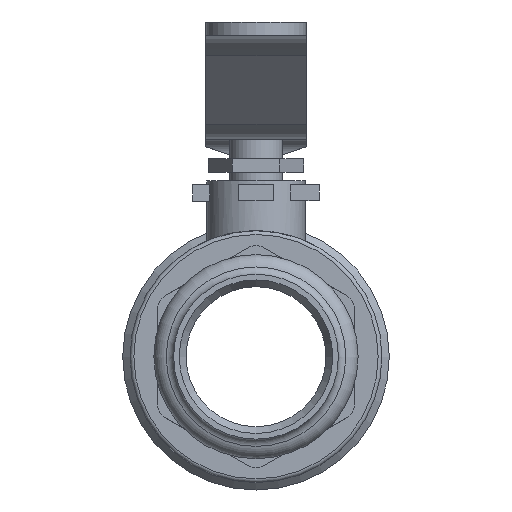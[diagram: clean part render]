
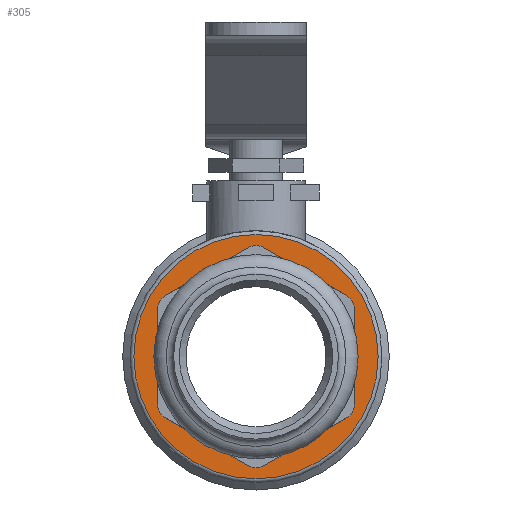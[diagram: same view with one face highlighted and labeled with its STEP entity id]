
A CAD part, left-side view. The second image highlights one B-rep face of the part: STEP entity #305.
In plain terms, the highlighted planar face has unit normal (-1, 0, 0).
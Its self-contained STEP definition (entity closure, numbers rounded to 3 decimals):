
#305=ADVANCED_FACE('',(#1091,#1092),#503,.F.);
#503=PLANE('',#3158);
#615=LINE('',#4420,#853);
#616=LINE('',#4423,#854);
#617=LINE('',#4425,#855);
#618=LINE('',#4427,#856);
#619=LINE('',#4429,#857);
#620=LINE('',#4431,#858);
#621=LINE('',#4433,#859);
#622=LINE('',#4435,#860);
#623=LINE('',#4437,#861);
#624=LINE('',#4439,#862);
#625=LINE('',#4441,#863);
#626=LINE('',#4443,#864);
#853=VECTOR('',#3501,1.);
#854=VECTOR('',#3502,1.);
#855=VECTOR('',#3503,1.);
#856=VECTOR('',#3504,1.);
#857=VECTOR('',#3505,1.);
#858=VECTOR('',#3506,1.);
#859=VECTOR('',#3507,1.);
#860=VECTOR('',#3508,1.);
#861=VECTOR('',#3509,1.);
#862=VECTOR('',#3510,1.);
#863=VECTOR('',#3511,1.);
#864=VECTOR('',#3512,1.);
#1091=FACE_BOUND('',#1282,.T.);
#1092=FACE_BOUND('',#1283,.T.);
#1282=EDGE_LOOP('',(#1578));
#1283=EDGE_LOOP('',(#1579,#1580,#1581,#1582,#1583,#1584,#1585,#1586,#1587,
#1588,#1589,#1590));
#1578=ORIENTED_EDGE('',*,*,#2633,.T.);
#1579=ORIENTED_EDGE('',*,*,#2634,.F.);
#1580=ORIENTED_EDGE('',*,*,#2635,.T.);
#1581=ORIENTED_EDGE('',*,*,#2636,.F.);
#1582=ORIENTED_EDGE('',*,*,#2637,.T.);
#1583=ORIENTED_EDGE('',*,*,#2638,.F.);
#1584=ORIENTED_EDGE('',*,*,#2639,.T.);
#1585=ORIENTED_EDGE('',*,*,#2640,.F.);
#1586=ORIENTED_EDGE('',*,*,#2641,.T.);
#1587=ORIENTED_EDGE('',*,*,#2642,.F.);
#1588=ORIENTED_EDGE('',*,*,#2643,.T.);
#1589=ORIENTED_EDGE('',*,*,#2644,.F.);
#1590=ORIENTED_EDGE('',*,*,#2645,.T.);
#2348=VERTEX_POINT('',#4419);
#2349=VERTEX_POINT('',#4421);
#2350=VERTEX_POINT('',#4422);
#2351=VERTEX_POINT('',#4424);
#2352=VERTEX_POINT('',#4426);
#2353=VERTEX_POINT('',#4428);
#2354=VERTEX_POINT('',#4430);
#2355=VERTEX_POINT('',#4432);
#2356=VERTEX_POINT('',#4434);
#2357=VERTEX_POINT('',#4436);
#2358=VERTEX_POINT('',#4438);
#2359=VERTEX_POINT('',#4440);
#2360=VERTEX_POINT('',#4442);
#2633=EDGE_CURVE('',#2348,#2348,#3018,.T.);
#2634=EDGE_CURVE('',#2349,#2350,#615,.T.);
#2635=EDGE_CURVE('',#2349,#2351,#616,.T.);
#2636=EDGE_CURVE('',#2352,#2351,#617,.T.);
#2637=EDGE_CURVE('',#2352,#2353,#618,.T.);
#2638=EDGE_CURVE('',#2354,#2353,#619,.T.);
#2639=EDGE_CURVE('',#2354,#2355,#620,.T.);
#2640=EDGE_CURVE('',#2356,#2355,#621,.T.);
#2641=EDGE_CURVE('',#2356,#2357,#622,.T.);
#2642=EDGE_CURVE('',#2358,#2357,#623,.T.);
#2643=EDGE_CURVE('',#2358,#2359,#624,.T.);
#2644=EDGE_CURVE('',#2360,#2359,#625,.T.);
#2645=EDGE_CURVE('',#2360,#2350,#626,.T.);
#3018=CIRCLE('',#3157,32.3);
#3157=AXIS2_PLACEMENT_3D('',#4418,#3499,#3500);
#3158=AXIS2_PLACEMENT_3D('',#4444,#3513,#3514);
#3499=DIRECTION('',(-1.,0.,0.));
#3500=DIRECTION('',(0.,0.,-1.));
#3501=DIRECTION('',(0.,0.,1.));
#3502=DIRECTION('',(0.,0.5,-0.866));
#3503=DIRECTION('',(0.,-0.866,0.5));
#3504=DIRECTION('',(0.,1.,0.));
#3505=DIRECTION('',(0.,-0.866,-0.5));
#3506=DIRECTION('',(0.,0.5,0.866));
#3507=DIRECTION('',(0.,0.,-1.));
#3508=DIRECTION('',(0.,-0.5,0.866));
#3509=DIRECTION('',(0.,0.866,-0.5));
#3510=DIRECTION('',(0.,-1.,0.));
#3511=DIRECTION('',(0.,0.866,0.5));
#3512=DIRECTION('',(0.,-0.5,-0.866));
#3513=DIRECTION('',(1.,0.,0.));
#3514=DIRECTION('',(0.,0.,-1.));
#4418=CARTESIAN_POINT('',(-29.5,0.,0.));
#4419=CARTESIAN_POINT('',(-29.5,0.,-32.3));
#4420=CARTESIAN_POINT('',(-29.5,-26.,-15.011));
#4421=CARTESIAN_POINT('',(-29.5,-26.,-12.011));
#4422=CARTESIAN_POINT('',(-29.5,-26.,12.011));
#4423=CARTESIAN_POINT('',(-29.5,-26.,-12.011));
#4424=CARTESIAN_POINT('',(-29.5,-23.402,-16.511));
#4425=CARTESIAN_POINT('',(-29.5,0.,-30.022));
#4426=CARTESIAN_POINT('',(-29.5,-2.598,-28.522));
#4427=CARTESIAN_POINT('',(-29.5,-2.598,-28.522));
#4428=CARTESIAN_POINT('',(-29.5,2.598,-28.522));
#4429=CARTESIAN_POINT('',(-29.5,26.,-15.011));
#4430=CARTESIAN_POINT('',(-29.5,23.402,-16.511));
#4431=CARTESIAN_POINT('',(-29.5,23.402,-16.511));
#4432=CARTESIAN_POINT('',(-29.5,26.,-12.011));
#4433=CARTESIAN_POINT('',(-29.5,26.,15.011));
#4434=CARTESIAN_POINT('',(-29.5,26.,12.011));
#4435=CARTESIAN_POINT('',(-29.5,26.,12.011));
#4436=CARTESIAN_POINT('',(-29.5,23.402,16.511));
#4437=CARTESIAN_POINT('',(-29.5,0.,30.022));
#4438=CARTESIAN_POINT('',(-29.5,2.598,28.522));
#4439=CARTESIAN_POINT('',(-29.5,2.598,28.522));
#4440=CARTESIAN_POINT('',(-29.5,-2.598,28.522));
#4441=CARTESIAN_POINT('',(-29.5,-26.,15.011));
#4442=CARTESIAN_POINT('',(-29.5,-23.402,16.511));
#4443=CARTESIAN_POINT('',(-29.5,-23.402,16.511));
#4444=CARTESIAN_POINT('',(-29.5,0.,0.));
